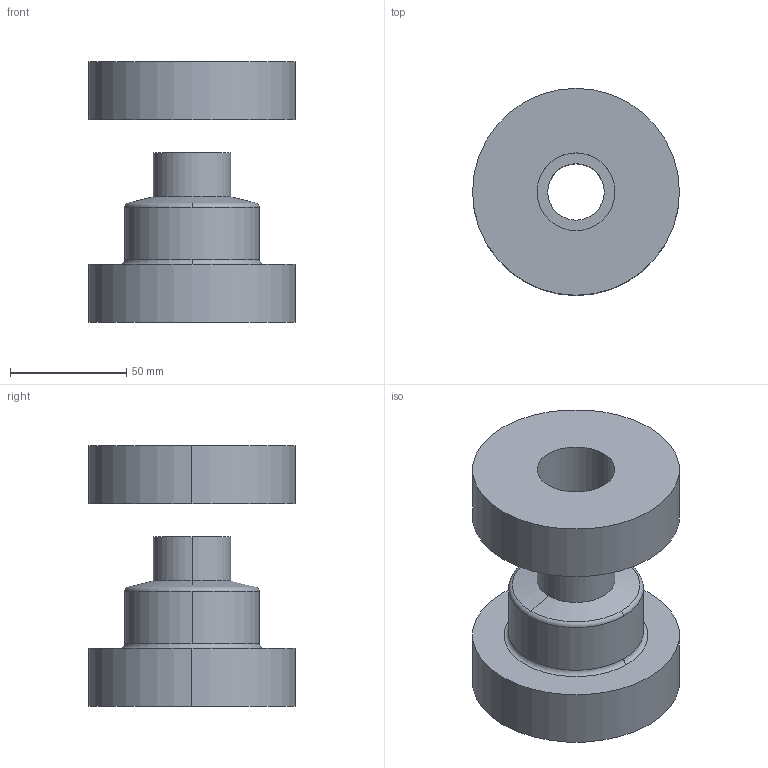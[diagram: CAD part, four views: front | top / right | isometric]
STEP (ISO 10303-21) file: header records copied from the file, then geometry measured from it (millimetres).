
FILE_DESCRIPTION(('STEP AP214'),'1');
FILE_NAME('C:/Transfer Dokumente/6004x 160226.stp','2026-02-16T11:54:16',(' '),(' '),'Spatial InterOp 3D',' ',' ');
FILE_SCHEMA(('automotive_design'));
Length unit declared in the file: millimetre
Products named in the file (2): 1; 2
Bounding box: 89 x 89 x 112.24 mm (x, y, z)
Volume: 345729.7 mm3; surface area: 50924.3 mm2
Topology: 2 solids, 2 shells, 23 faces, 53 edges, 35 vertices
Faces by surface type: cylinder 12, plane 5, torus 4, cone 2
Entity records: 716 total; most frequent: DIRECTION 142, CARTESIAN_POINT 113, ORIENTED_EDGE 106, AXIS2_PLACEMENT_3D 64, EDGE_CURVE 53, CIRCLE 39, VERTEX_POINT 35, EDGE_LOOP 28
